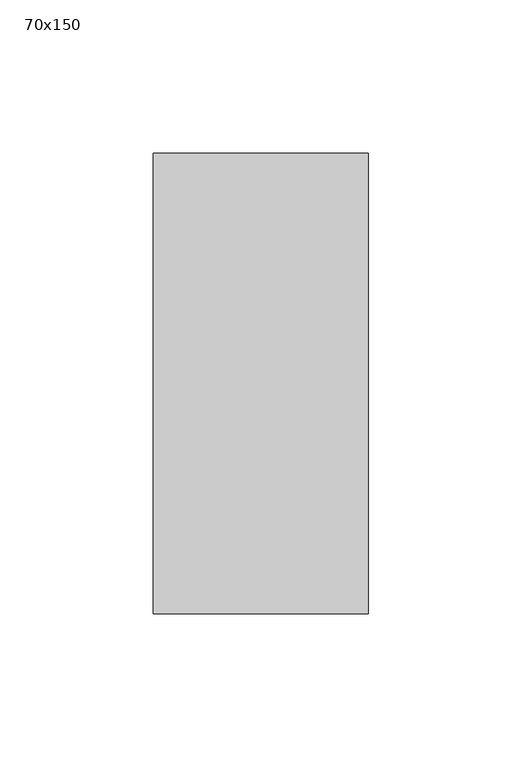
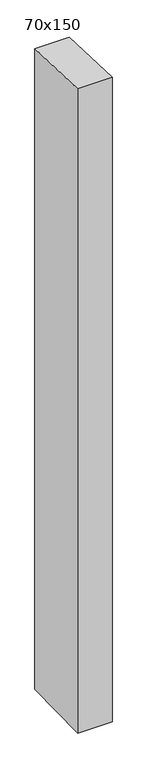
"""IFC4 building model written with IfcOpenShell, lengths in millimetres: member geometry, 長方形のマリオン : 70x150."""

from ifc_helpers import new_model, si_unit, frame, origin, place, context, project, spatial, polyline, outline, extrude, source, transform, mapped, element, save


def member_70x150_8d1aeb24(model_context):
    return source(origin(), model_context, "Body", "SweptSolid", [
        extrude(outline(polyline([(-75.0, 2.3941027), (75.0, -2.3941027), (75.0, -1378.5010843), (-75.0, -1381.256696), (-75.0, 2.3941027)])), frame((-70.0, 0.0, 0.0), z_axis=(1.0, 0.0, 0.0), x_axis=(0.0, 1.0, 0.0)), (0.0, 0.0, 1.0), 70.0),
    ])


if __name__ == "__main__":
    model = new_model("IFC4")
    model_context = context("Model", 3, world=origin())
    ifc_project = project(units=[si_unit("LENGTHUNIT", "METRE", prefix="MILLI")], contexts=[model_context])
    site = spatial("IfcSite", under=ifc_project)
    building = spatial("IfcBuilding", under=site)
    placement = place(None, origin())
    member_70x150_shape = member_70x150_8d1aeb24(model_context)
    element("IfcMember", 1, ObjectType="長方形のマリオン : 70x150", at=placement, inside=building, context=model_context, shape_type="MappedRepresentation", body=[
        mapped(member_70x150_shape, transform((0.0, 0.0, 0.0), x_axis=(1.0, 0.0, 0.0), y_axis=(0.0, 1.0, 0.0), z_axis=(0.0, 0.0, 1.0))),
    ])
    save(model, "model.ifc")
